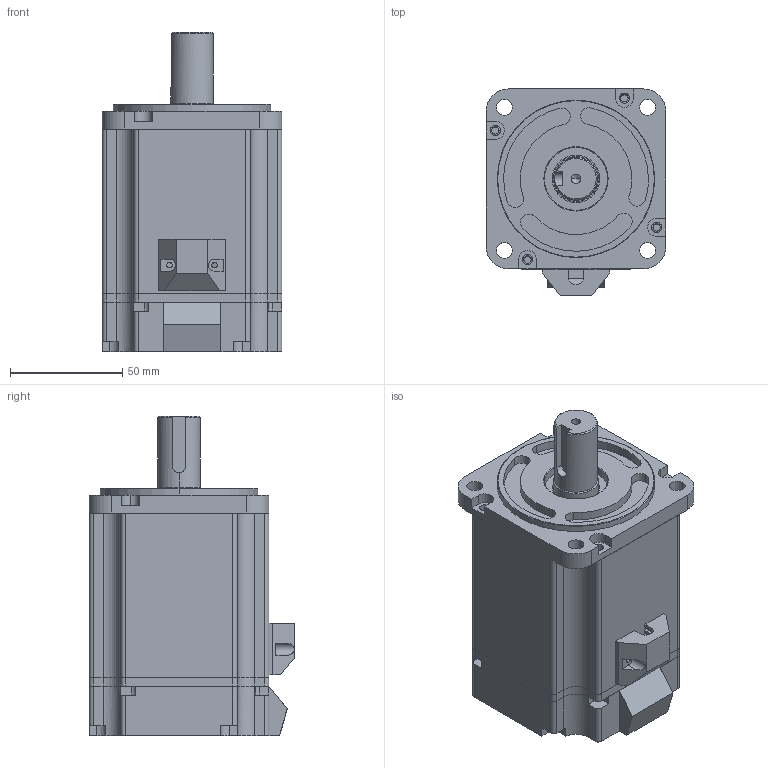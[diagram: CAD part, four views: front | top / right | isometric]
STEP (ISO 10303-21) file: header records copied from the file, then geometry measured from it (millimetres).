
FILE_DESCRIPTION (( 'STEP AP214' ), '1' );
FILE_NAME ('RSNA-M08J2430A.STEP', '2022-01-14T07:17:40', ( '' ), ( '' ), 'SwSTEP 2.0', 'SolidWorks 2020', '' );
FILE_SCHEMA (( 'AUTOMOTIVE_DESIGN' ));
Length unit declared in the file: millimetre
Products named in the file (7): 80侜督呿蹋綴欶; S80DG-B-001; S80DG-A-001; 86等謂揤盄裔; 80SF750-K1950-002; S80-H73-001; RSNA-M08J2430A
Assembly tree (6 placements, depth 2):
  RSNA-M08J2430A
    80SF750-K1950-002
    S80DG-A-001
    S80DG-B-001
    S80-H73-001
    80侜督呿蹋綴欶
    86等謂揤盄裔
Bounding box: 80 x 91.55 x 142 mm (x, y, z)
Volume: 221356.3 mm3; surface area: 120831.9 mm2
Topology: 6 solids, 6 shells, 656 faces, 1674 edges, 1042 vertices
Faces by surface type: cylinder 286, plane 221, torus 60, bspline 48, cone 41
Entity records: 22159 total; most frequent: CARTESIAN_POINT 5695, DIRECTION 3488, ORIENTED_EDGE 3304, EDGE_CURVE 1652, AXIS2_PLACEMENT_3D 1349, VERTEX_POINT 1042, LINE 790, VECTOR 790
